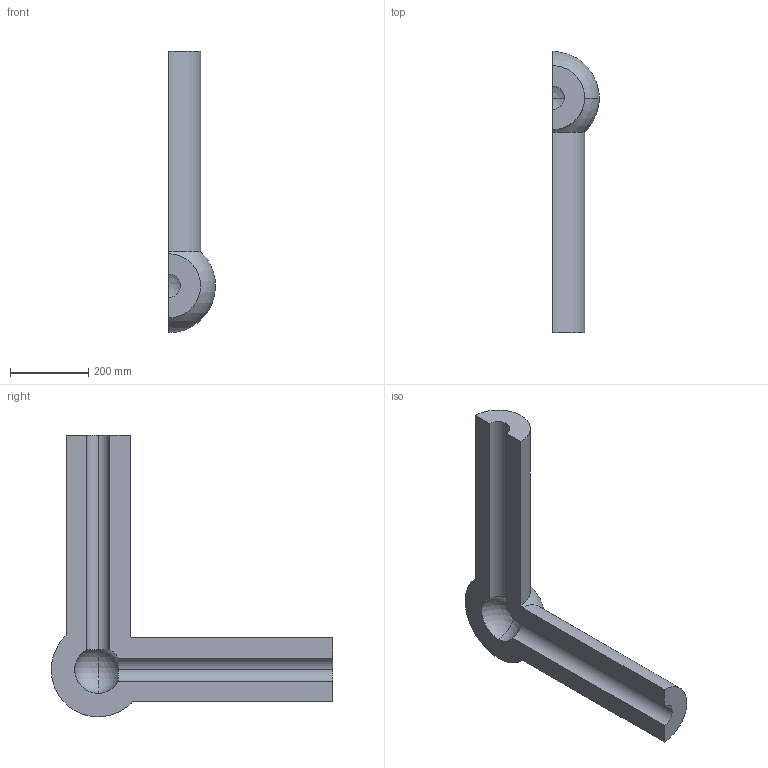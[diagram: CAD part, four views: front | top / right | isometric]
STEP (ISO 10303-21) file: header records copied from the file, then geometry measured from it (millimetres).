
FILE_DESCRIPTION(('FreeCAD Model'),'2;1');
FILE_NAME('E:/qf/3dexamples/sf6_knee/sf6_knee.step', '2019-12-01T12:05:46',('Author'),(''), 'Open CASCADE STEP processor 7.2','FreeCAD','Unknown');
FILE_SCHEMA(('AUTOMOTIVE_DESIGN { 1 0 10303 214 1 1 1 1 }'));
Length unit declared in the file: millimetre
Products named in the file (1): Common
Bounding box: 119.93 x 719.93 x 720 mm (x, y, z)
Volume: 12092659.5 mm3; surface area: 600821.3 mm2
Topology: 1 solids, 1 shells, 16 faces, 44 edges, 26 vertices
Faces by surface type: cylinder 8, plane 4, sphere 4
Entity records: 1432 total; most frequent: CARTESIAN_POINT 515, DIRECTION 150, ORIENTED_EDGE 80, PCURVE 80, DEFINITIONAL_REPRESENTATION 80, LINE 54, VECTOR 54, AXIS2_PLACEMENT_3D 41
